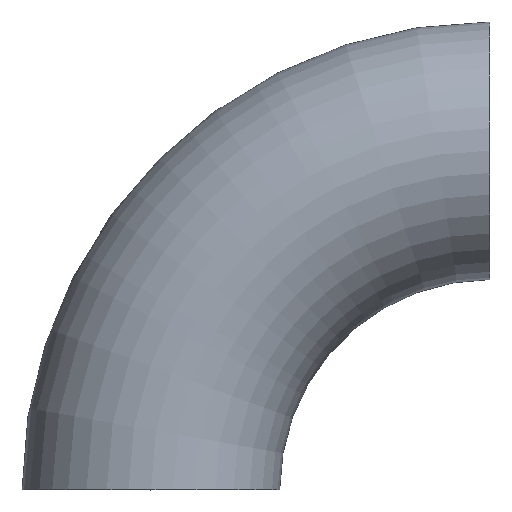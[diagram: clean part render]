
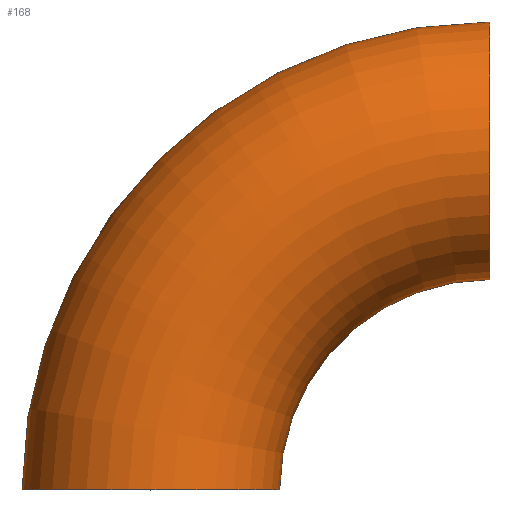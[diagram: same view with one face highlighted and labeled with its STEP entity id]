
A CAD part, top view. The second image highlights one B-rep face of the part: STEP entity #168.
In plain terms, the highlighted toroidal (fillet/blend) face has major radius 50 mm and minor radius 19 mm.
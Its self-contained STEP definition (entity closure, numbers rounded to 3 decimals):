
#9 = EDGE_LOOP ( 'NONE', ( #249, #122, #17, #147 ) ) ;
#10 = AXIS2_PLACEMENT_3D ( 'NONE', #87, #239, #183 ) ;
#17 = ORIENTED_EDGE ( 'NONE', *, *, #29, .T. ) ;
#18 = DIRECTION ( 'NONE',  ( 0., 0., 1. ) ) ;
#21 = EDGE_CURVE ( 'NONE', #115, #113, #92, .T. ) ;
#28 = CARTESIAN_POINT ( 'NONE',  ( 50., 0., 0. ) ) ;
#29 = EDGE_CURVE ( 'NONE', #149, #113, #106, .T. ) ;
#54 = AXIS2_PLACEMENT_3D ( 'NONE', #83, #241, #214 ) ;
#59 = CIRCLE ( 'NONE', #10, 19. ) ;
#62 = DIRECTION ( 'NONE',  ( 0., 0., 1. ) ) ;
#65 = DIRECTION ( 'NONE',  ( 1., 0., 0. ) ) ;
#79 = CARTESIAN_POINT ( 'NONE',  ( 19., 0., 0. ) ) ;
#83 = CARTESIAN_POINT ( 'NONE',  ( 50., 0., 0. ) ) ;
#85 = CIRCLE ( 'NONE', #54, 69. ) ;
#87 = CARTESIAN_POINT ( 'NONE',  ( 50., 50., 0. ) ) ;
#92 = CIRCLE ( 'NONE', #225, 31. ) ;
#100 = DIRECTION ( 'NONE',  ( 1., 0., 0. ) ) ;
#102 = DIRECTION ( 'NONE',  ( 0., 1., 0. ) ) ;
#106 = CIRCLE ( 'NONE', #208, 19. ) ;
#113 = VERTEX_POINT ( 'NONE', #79 ) ;
#115 = VERTEX_POINT ( 'NONE', #182 ) ;
#119 = CARTESIAN_POINT ( 'NONE',  ( 50., 0., 0. ) ) ;
#122 = ORIENTED_EDGE ( 'NONE', *, *, #223, .T. ) ;
#126 = FACE_OUTER_BOUND ( 'NONE', #9, .T. ) ;
#147 = ORIENTED_EDGE ( 'NONE', *, *, #21, .F. ) ;
#149 = VERTEX_POINT ( 'NONE', #181 ) ;
#159 = AXIS2_PLACEMENT_3D ( 'NONE', #28, #164, #65 ) ;
#164 = DIRECTION ( 'NONE',  ( 0., 0., 1. ) ) ;
#168 = ADVANCED_FACE ( 'NONE', ( #126 ), #191, .T. ) ;
#178 = CARTESIAN_POINT ( 'NONE',  ( 0., 0., 0. ) ) ;
#181 = CARTESIAN_POINT ( 'NONE',  ( -19., 0., 0. ) ) ;
#182 = CARTESIAN_POINT ( 'NONE',  ( 50., 31., 0. ) ) ;
#183 = DIRECTION ( 'NONE',  ( 0., 0., 1. ) ) ;
#190 = EDGE_CURVE ( 'NONE', #204, #115, #59, .T. ) ;
#191 = TOROIDAL_SURFACE ( 'NONE', #159, 50., 19. ) ;
#199 = CARTESIAN_POINT ( 'NONE',  ( 50., 69., 0. ) ) ;
#204 = VERTEX_POINT ( 'NONE', #199 ) ;
#208 = AXIS2_PLACEMENT_3D ( 'NONE', #178, #102, #18 ) ;
#214 = DIRECTION ( 'NONE',  ( 1., 0., 0. ) ) ;
#223 = EDGE_CURVE ( 'NONE', #204, #149, #85, .T. ) ;
#225 = AXIS2_PLACEMENT_3D ( 'NONE', #119, #62, #100 ) ;
#239 = DIRECTION ( 'NONE',  ( 1., 0., 0. ) ) ;
#241 = DIRECTION ( 'NONE',  ( 0., 0., 1. ) ) ;
#249 = ORIENTED_EDGE ( 'NONE', *, *, #190, .F. ) ;
